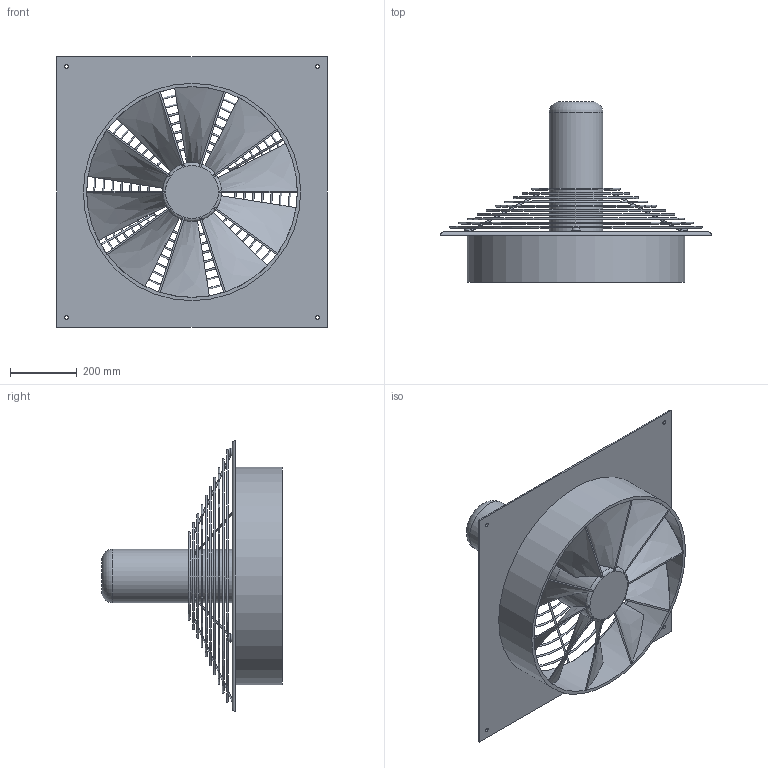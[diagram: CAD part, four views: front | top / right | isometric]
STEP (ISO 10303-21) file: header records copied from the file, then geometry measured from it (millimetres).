
FILE_DESCRIPTION(/* description */ (''),/* implementation_level */ '2;1');
FILE_NAME(/* name */ 'Z:\Output\HQD_630-6_EX-05035-021.stp',/* time_stamp */ '2020-05-11T13:51:40+02:00',/* author */ ('pareshmistry'),/* organization */ (''),/* preprocessor_version */ 'ST-DEVELOPER v17.2',/* originating_system */ 'Autodesk Inventor 2019',/* authorisation */ '');
FILE_SCHEMA (('AUTOMOTIVE_DESIGN { 1 0 10303 214 3 1 1 }'));
Length unit declared in the file: millimetre
Products named in the file (1): HQW EC 450
Bounding box: 810 x 540 x 810 mm (x, y, z)
Volume: 18736262 mm3; surface area: 2463639.5 mm2
Topology: 11 solids, 11 shells, 105 faces, 332 edges, 236 vertices
Faces by surface type: bspline 33, plane 28, cylinder 23, torus 21
Full cylindrical faces by diameter (mm): 5 x6, 11 x4, 25 x3, 160 x1, 176 x1, 630 x1, 650 x1
Entity records: 5461 total; most frequent: CARTESIAN_POINT 2465, ORIENTED_EDGE 704, DIRECTION 504, EDGE_CURVE 352, VERTEX_POINT 256, AXIS2_PLACEMENT_3D 207, EDGE_LOOP 126, B_SPLINE_CURVE_WITH_KNOTS 125
